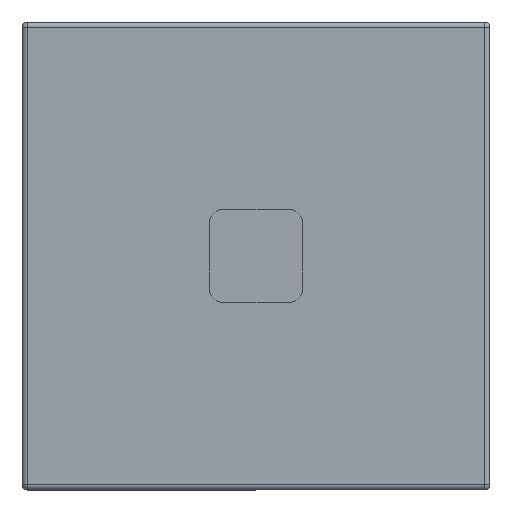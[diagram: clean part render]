
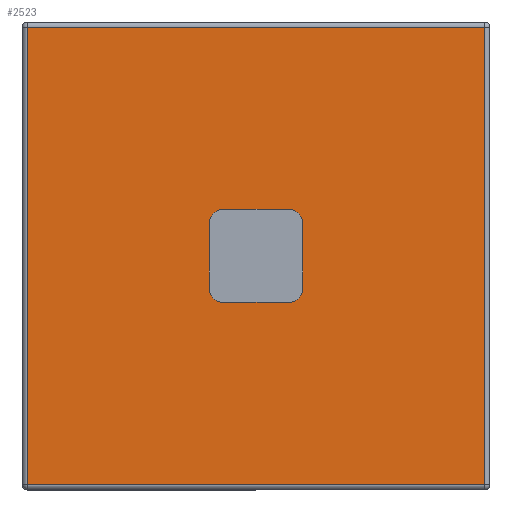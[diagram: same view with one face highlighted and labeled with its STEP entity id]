
A CAD part, top view. The second image highlights one B-rep face of the part: STEP entity #2523.
In plain terms, the highlighted planar face has unit normal (0, 0, 1).
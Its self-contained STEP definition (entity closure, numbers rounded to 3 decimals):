
#134 = DIRECTION ( 'NONE',  ( 1., 0., 0. ) ) ;
#298 = ORIENTED_EDGE ( 'NONE', *, *, #3003, .T. ) ;
#312 = CARTESIAN_POINT ( 'NONE',  ( 86., 88., 12. ) ) ;
#370 = CARTESIAN_POINT ( 'NONE',  ( -86., -88., 12. ) ) ;
#540 = EDGE_CURVE ( 'NONE', #960, #3831, #969, .T. ) ;
#618 = ORIENTED_EDGE ( 'NONE', *, *, #540, .T. ) ;
#638 = DIRECTION ( 'NONE',  ( 0., -1., 0. ) ) ;
#664 = VECTOR ( 'NONE', #638, 1000. ) ;
#779 = DIRECTION ( 'NONE',  ( -1., 0., 0. ) ) ;
#790 = DIRECTION ( 'NONE',  ( 1., 0., 0. ) ) ;
#799 = CARTESIAN_POINT ( 'NONE',  ( -4., 0., 12. ) ) ;
#960 = VERTEX_POINT ( 'NONE', #4020 ) ;
#969 = LINE ( 'NONE', #312, #2669 ) ;
#971 = CARTESIAN_POINT ( 'NONE',  ( -86., -86., 12. ) ) ;
#1117 = CIRCLE ( 'NONE', #2429, 4. ) ;
#1226 = DIRECTION ( 'NONE',  ( 1., 0., 0. ) ) ;
#1227 = DIRECTION ( 'NONE',  ( 0., 1., 0. ) ) ;
#1253 = VECTOR ( 'NONE', #779, 1000. ) ;
#1335 = EDGE_LOOP ( 'NONE', ( #2184, #2966 ) ) ;
#1499 = EDGE_CURVE ( 'NONE', #3469, #3059, #1117, .T. ) ;
#1561 = ORIENTED_EDGE ( 'NONE', *, *, #1713, .T. ) ;
#1565 = CARTESIAN_POINT ( 'NONE',  ( -86., 86., 12. ) ) ;
#1583 = CARTESIAN_POINT ( 'NONE',  ( 4., 0., 12. ) ) ;
#1646 = AXIS2_PLACEMENT_3D ( 'NONE', #2332, #2985, #134 ) ;
#1678 = EDGE_CURVE ( 'NONE', #2904, #2207, #2544, .T. ) ;
#1713 = EDGE_CURVE ( 'NONE', #2207, #960, #1947, .T. ) ;
#1743 = CARTESIAN_POINT ( 'NONE',  ( 86., 86., 12. ) ) ;
#1811 = CIRCLE ( 'NONE', #3699, 4. ) ;
#1947 = LINE ( 'NONE', #3781, #3076 ) ;
#2164 = ORIENTED_EDGE ( 'NONE', *, *, #1678, .T. ) ;
#2184 = ORIENTED_EDGE ( 'NONE', *, *, #3255, .F. ) ;
#2207 = VERTEX_POINT ( 'NONE', #971 ) ;
#2332 = CARTESIAN_POINT ( 'NONE',  ( 0., 0., 12. ) ) ;
#2348 = LINE ( 'NONE', #2596, #1253 ) ;
#2376 = FACE_BOUND ( 'NONE', #1335, .T. ) ;
#2429 = AXIS2_PLACEMENT_3D ( 'NONE', #2749, #2786, #1226 ) ;
#2523 = ADVANCED_FACE ( 'NONE', ( #2376, #2951 ), #3866, .T. ) ;
#2544 = LINE ( 'NONE', #370, #664 ) ;
#2596 = CARTESIAN_POINT ( 'NONE',  ( -88., 86., 12. ) ) ;
#2669 = VECTOR ( 'NONE', #1227, 1000. ) ;
#2721 = CARTESIAN_POINT ( 'NONE',  ( 0., 0., 12. ) ) ;
#2749 = CARTESIAN_POINT ( 'NONE',  ( 0., 0., 12. ) ) ;
#2786 = DIRECTION ( 'NONE',  ( 0., 0., 1. ) ) ;
#2894 = DIRECTION ( 'NONE',  ( 1., 0., 0. ) ) ;
#2904 = VERTEX_POINT ( 'NONE', #1565 ) ;
#2951 = FACE_OUTER_BOUND ( 'NONE', #3366, .T. ) ;
#2966 = ORIENTED_EDGE ( 'NONE', *, *, #1499, .F. ) ;
#2985 = DIRECTION ( 'NONE',  ( 0., 0., 1. ) ) ;
#3003 = EDGE_CURVE ( 'NONE', #3831, #2904, #2348, .T. ) ;
#3059 = VERTEX_POINT ( 'NONE', #799 ) ;
#3076 = VECTOR ( 'NONE', #2894, 1000. ) ;
#3255 = EDGE_CURVE ( 'NONE', #3059, #3469, #1811, .T. ) ;
#3366 = EDGE_LOOP ( 'NONE', ( #298, #2164, #1561, #618 ) ) ;
#3469 = VERTEX_POINT ( 'NONE', #1583 ) ;
#3699 = AXIS2_PLACEMENT_3D ( 'NONE', #2721, #3955, #790 ) ;
#3781 = CARTESIAN_POINT ( 'NONE',  ( 88., -86., 12. ) ) ;
#3831 = VERTEX_POINT ( 'NONE', #1743 ) ;
#3866 = PLANE ( 'NONE',  #1646 ) ;
#3955 = DIRECTION ( 'NONE',  ( 0., 0., 1. ) ) ;
#4020 = CARTESIAN_POINT ( 'NONE',  ( 86., -86., 12. ) ) ;
